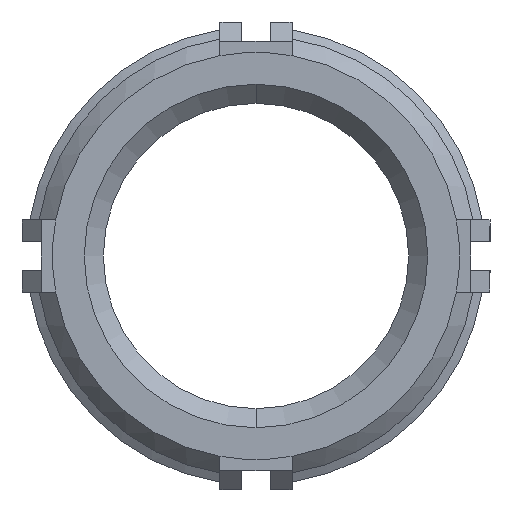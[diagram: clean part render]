
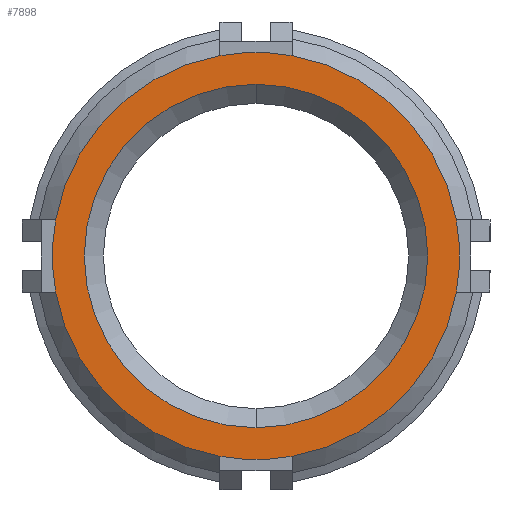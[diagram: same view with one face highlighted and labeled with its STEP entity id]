
A CAD part, front view. The second image highlights one B-rep face of the part: STEP entity #7898.
In plain terms, the highlighted planar face has unit normal (0, -1, 0).
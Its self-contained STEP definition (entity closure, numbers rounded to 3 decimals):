
#15 = ORIENTED_EDGE ( 'NONE', *, *, #7544, .T. ) ;
#112 = CARTESIAN_POINT ( 'NONE',  ( 0., -34.798, 0. ) ) ;
#183 = CARTESIAN_POINT ( 'NONE',  ( 0., -34.798, 0. ) ) ;
#426 = ORIENTED_EDGE ( 'NONE', *, *, #6139, .T. ) ;
#509 = EDGE_CURVE ( 'NONE', #6724, #606, #4097, .T. ) ;
#554 = CARTESIAN_POINT ( 'NONE',  ( 0., -34.798, 0. ) ) ;
#606 = VERTEX_POINT ( 'NONE', #6185 ) ;
#683 = CARTESIAN_POINT ( 'NONE',  ( 3., -34.798, 16.665 ) ) ;
#688 = AXIS2_PLACEMENT_3D ( 'NONE', #6504, #5361, #5844 ) ;
#851 = AXIS2_PLACEMENT_3D ( 'NONE', #4798, #7324, #1654 ) ;
#929 = DIRECTION ( 'NONE',  ( 0., -1., 0. ) ) ;
#982 = CARTESIAN_POINT ( 'NONE',  ( -3., -34.798, 16.665 ) ) ;
#1085 = AXIS2_PLACEMENT_3D ( 'NONE', #554, #3091, #8128 ) ;
#1121 = AXIS2_PLACEMENT_3D ( 'NONE', #183, #7677, #2986 ) ;
#1172 = VERTEX_POINT ( 'NONE', #1284 ) ;
#1214 = CIRCLE ( 'NONE', #688, 16.933 ) ;
#1239 = AXIS2_PLACEMENT_3D ( 'NONE', #2011, #2144, #6442 ) ;
#1284 = CARTESIAN_POINT ( 'NONE',  ( 16.665, -34.798, -3. ) ) ;
#1407 = VERTEX_POINT ( 'NONE', #5310 ) ;
#1641 = DIRECTION ( 'NONE',  ( 0., 0., 1. ) ) ;
#1654 = DIRECTION ( 'NONE',  ( 1., 0., 0. ) ) ;
#1685 = ORIENTED_EDGE ( 'NONE', *, *, #5566, .T. ) ;
#1766 = CARTESIAN_POINT ( 'NONE',  ( -16.665, -34.798, 3. ) ) ;
#1780 = CARTESIAN_POINT ( 'NONE',  ( 0., -34.798, 0. ) ) ;
#1912 = AXIS2_PLACEMENT_3D ( 'NONE', #1780, #8068, #3034 ) ;
#2011 = CARTESIAN_POINT ( 'NONE',  ( 0., -34.798, 0. ) ) ;
#2073 = DIRECTION ( 'NONE',  ( 0., 0., 1. ) ) ;
#2101 = VERTEX_POINT ( 'NONE', #4049 ) ;
#2144 = DIRECTION ( 'NONE',  ( 0., -1., 0. ) ) ;
#2230 = CARTESIAN_POINT ( 'NONE',  ( 0., -34.798, 0. ) ) ;
#2373 = DIRECTION ( 'NONE',  ( 0., 0., 1. ) ) ;
#2393 = EDGE_CURVE ( 'NONE', #1172, #2622, #5581, .T. ) ;
#2465 = CARTESIAN_POINT ( 'NONE',  ( 0., -34.798, 0. ) ) ;
#2622 = VERTEX_POINT ( 'NONE', #5610 ) ;
#2650 = DIRECTION ( 'NONE',  ( 0., 1., 0. ) ) ;
#2742 = CIRCLE ( 'NONE', #5768, 16.933 ) ;
#2986 = DIRECTION ( 'NONE',  ( 0., 0., 1. ) ) ;
#2991 = VERTEX_POINT ( 'NONE', #3016 ) ;
#2996 = ORIENTED_EDGE ( 'NONE', *, *, #509, .T. ) ;
#3010 = CIRCLE ( 'NONE', #3919, 14.287 ) ;
#3016 = CARTESIAN_POINT ( 'NONE',  ( 0., -34.798, 14.287 ) ) ;
#3034 = DIRECTION ( 'NONE',  ( 0., 0., 1. ) ) ;
#3064 = ORIENTED_EDGE ( 'NONE', *, *, #6034, .T. ) ;
#3091 = DIRECTION ( 'NONE',  ( 0., -1., 0. ) ) ;
#3098 = FACE_BOUND ( 'NONE', #3443, .T. ) ;
#3147 = EDGE_CURVE ( 'NONE', #4660, #1407, #1214, .T. ) ;
#3443 = EDGE_LOOP ( 'NONE', ( #426, #15 ) ) ;
#3648 = CIRCLE ( 'NONE', #851, 16.933 ) ;
#3656 = EDGE_LOOP ( 'NONE', ( #2996, #7431, #7425, #8048, #3977, #5782, #3064, #1685 ) ) ;
#3754 = PLANE ( 'NONE',  #4328 ) ;
#3919 = AXIS2_PLACEMENT_3D ( 'NONE', #5515, #8032, #2373 ) ;
#3977 = ORIENTED_EDGE ( 'NONE', *, *, #2393, .T. ) ;
#4049 = CARTESIAN_POINT ( 'NONE',  ( 0., -34.798, -14.287 ) ) ;
#4097 = CIRCLE ( 'NONE', #4884, 16.933 ) ;
#4179 = CIRCLE ( 'NONE', #6545, 14.287 ) ;
#4328 = AXIS2_PLACEMENT_3D ( 'NONE', #7368, #6275, #6162 ) ;
#4555 = CIRCLE ( 'NONE', #1239, 16.933 ) ;
#4660 = VERTEX_POINT ( 'NONE', #6112 ) ;
#4798 = CARTESIAN_POINT ( 'NONE',  ( 0., -34.798, 0. ) ) ;
#4884 = AXIS2_PLACEMENT_3D ( 'NONE', #2465, #6145, #4979 ) ;
#4979 = DIRECTION ( 'NONE',  ( 0., 0., 1. ) ) ;
#5310 = CARTESIAN_POINT ( 'NONE',  ( 3., -34.798, -16.665 ) ) ;
#5361 = DIRECTION ( 'NONE',  ( 0., -1., 0. ) ) ;
#5515 = CARTESIAN_POINT ( 'NONE',  ( 0., -34.798, 0. ) ) ;
#5566 = EDGE_CURVE ( 'NONE', #6676, #6724, #4555, .T. ) ;
#5581 = CIRCLE ( 'NONE', #1085, 16.933 ) ;
#5610 = CARTESIAN_POINT ( 'NONE',  ( 16.665, -34.798, 3. ) ) ;
#5637 = EDGE_CURVE ( 'NONE', #606, #4660, #5874, .T. ) ;
#5768 = AXIS2_PLACEMENT_3D ( 'NONE', #2230, #929, #1641 ) ;
#5782 = ORIENTED_EDGE ( 'NONE', *, *, #6377, .T. ) ;
#5844 = DIRECTION ( 'NONE',  ( -1., 0., 0. ) ) ;
#5874 = CIRCLE ( 'NONE', #1121, 16.933 ) ;
#6025 = CIRCLE ( 'NONE', #1912, 16.933 ) ;
#6034 = EDGE_CURVE ( 'NONE', #6482, #6676, #3648, .T. ) ;
#6112 = CARTESIAN_POINT ( 'NONE',  ( -3., -34.798, -16.665 ) ) ;
#6139 = EDGE_CURVE ( 'NONE', #2101, #2991, #4179, .T. ) ;
#6145 = DIRECTION ( 'NONE',  ( 0., -1., 0. ) ) ;
#6162 = DIRECTION ( 'NONE',  ( 0., 0., 1. ) ) ;
#6185 = CARTESIAN_POINT ( 'NONE',  ( -16.665, -34.798, -3. ) ) ;
#6275 = DIRECTION ( 'NONE',  ( 0., 1., 0. ) ) ;
#6377 = EDGE_CURVE ( 'NONE', #2622, #6482, #6025, .T. ) ;
#6442 = DIRECTION ( 'NONE',  ( 0., 0., 1. ) ) ;
#6482 = VERTEX_POINT ( 'NONE', #683 ) ;
#6504 = CARTESIAN_POINT ( 'NONE',  ( 0., -34.798, 0. ) ) ;
#6545 = AXIS2_PLACEMENT_3D ( 'NONE', #112, #2650, #2073 ) ;
#6676 = VERTEX_POINT ( 'NONE', #982 ) ;
#6724 = VERTEX_POINT ( 'NONE', #1766 ) ;
#7324 = DIRECTION ( 'NONE',  ( 0., -1., 0. ) ) ;
#7368 = CARTESIAN_POINT ( 'NONE',  ( 0., -34.798, 0. ) ) ;
#7425 = ORIENTED_EDGE ( 'NONE', *, *, #3147, .T. ) ;
#7431 = ORIENTED_EDGE ( 'NONE', *, *, #5637, .T. ) ;
#7544 = EDGE_CURVE ( 'NONE', #2991, #2101, #3010, .T. ) ;
#7677 = DIRECTION ( 'NONE',  ( 0., -1., 0. ) ) ;
#7898 = ADVANCED_FACE ( 'NONE', ( #3098, #8136 ), #3754, .F. ) ;
#8032 = DIRECTION ( 'NONE',  ( 0., 1., 0. ) ) ;
#8048 = ORIENTED_EDGE ( 'NONE', *, *, #8096, .T. ) ;
#8068 = DIRECTION ( 'NONE',  ( 0., -1., 0. ) ) ;
#8096 = EDGE_CURVE ( 'NONE', #1407, #1172, #2742, .T. ) ;
#8128 = DIRECTION ( 'NONE',  ( 0., 0., -1. ) ) ;
#8136 = FACE_OUTER_BOUND ( 'NONE', #3656, .T. ) ;
